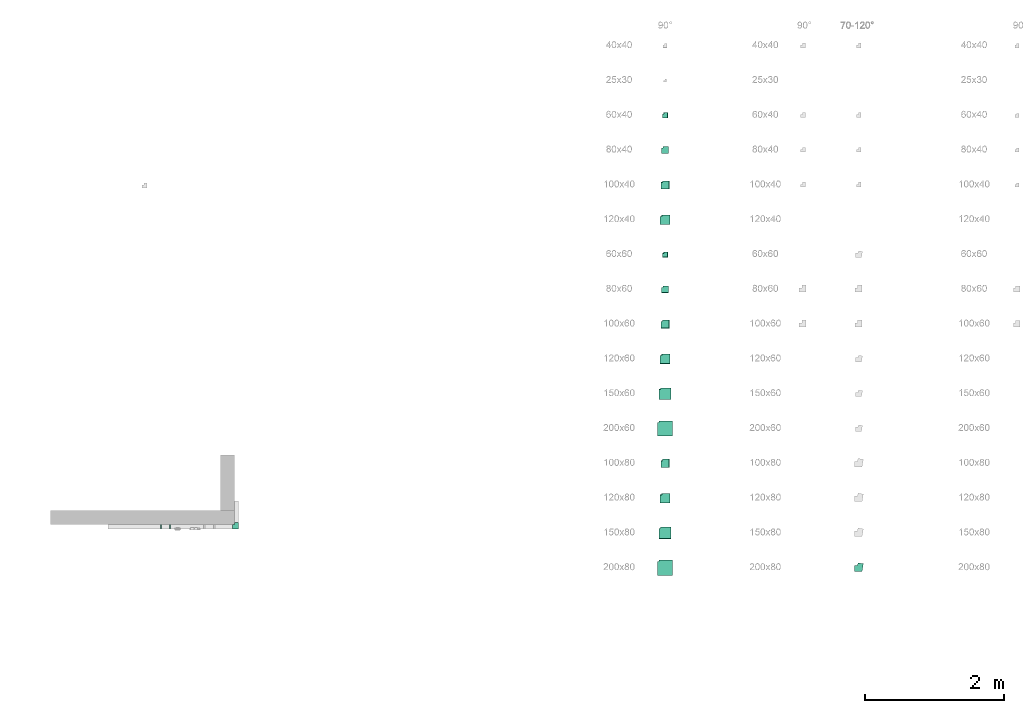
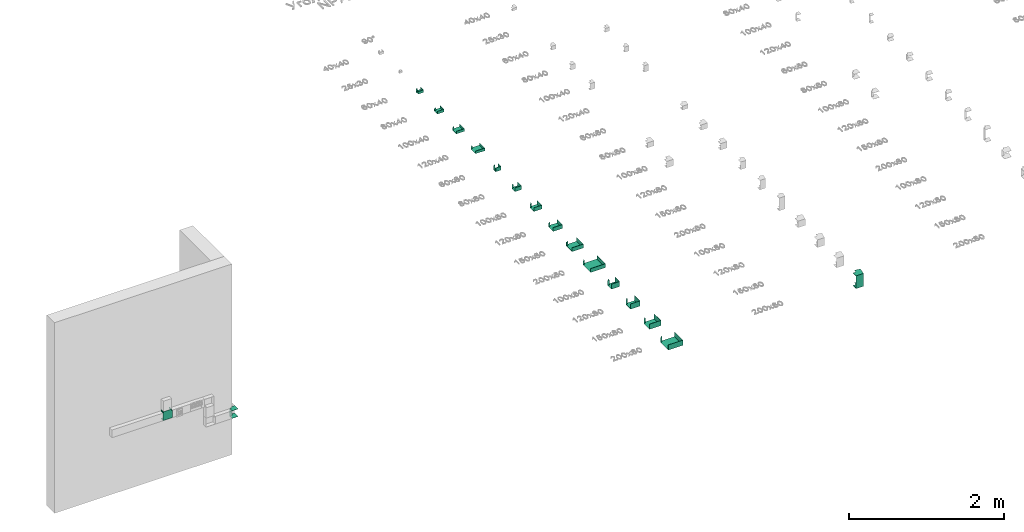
# One storey, part 5 of 71: 17 flow fittings.
"""IFC2X3 building model written with IfcOpenShell, lengths in millimetres."""

from ifc_helpers import new_model, entity, si_unit, converted_unit, derived_unit, direction, frame, origin, place, context, subcontext, project, spatial, faceted_brep, source, transform, mapped, material, type_object, type_shapes, element, save


model = new_model("IFC2X3")

# Units and contexts
model_context = context("Model", 3, precision=0.01, world=origin(), true_north=direction((6.12303176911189e-17, 1.0)))
body_context = subcontext(model_context, "Body", "Model", "MODEL_VIEW")
ifc_project = project(units=[si_unit("LENGTHUNIT", "METRE", prefix="MILLI"), si_unit("AREAUNIT", "SQUARE_METRE"), si_unit("VOLUMEUNIT", "CUBIC_METRE"), converted_unit("PLANEANGLEUNIT", "DEGREE", entity("IfcRatioMeasure", 0.0174532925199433), si_unit("PLANEANGLEUNIT", "RADIAN"), dimensions=[0, 0, 0, 0, 0, 0, 0]), si_unit("MASSUNIT", "GRAM", prefix="KILO"), derived_unit("MASSDENSITYUNIT", [(si_unit("MASSUNIT", "GRAM", prefix="KILO"), 1), (si_unit("LENGTHUNIT", "METRE"), -3)]), si_unit("TIMEUNIT", "SECOND"), si_unit("FREQUENCYUNIT", "HERTZ"), si_unit("THERMODYNAMICTEMPERATUREUNIT", "DEGREE_CELSIUS"), derived_unit("THERMALTRANSMITTANCEUNIT", [(si_unit("MASSUNIT", "GRAM", prefix="KILO"), 1), (si_unit("THERMODYNAMICTEMPERATUREUNIT", "KELVIN"), -1), (si_unit("TIMEUNIT", "SECOND"), -3)]), derived_unit("VOLUMETRICFLOWRATEUNIT", [(si_unit("LENGTHUNIT", "METRE"), 3), (si_unit("TIMEUNIT", "SECOND"), -1)]), si_unit("ELECTRICCURRENTUNIT", "AMPERE"), si_unit("ELECTRICVOLTAGEUNIT", "VOLT"), si_unit("POWERUNIT", "WATT"), si_unit("FORCEUNIT", "NEWTON", prefix="KILO"), si_unit("ILLUMINANCEUNIT", "LUX"), si_unit("LUMINOUSFLUXUNIT", "LUMEN"), si_unit("LUMINOUSINTENSITYUNIT", "CANDELA"), derived_unit("USERDEFINED", [(si_unit("MASSUNIT", "GRAM", prefix="KILO"), -1), (si_unit("LENGTHUNIT", "METRE"), -2), (si_unit("TIMEUNIT", "SECOND"), 3), (si_unit("LUMINOUSFLUXUNIT", "LUMEN"), 1)]), derived_unit("LINEARVELOCITYUNIT", [(si_unit("LENGTHUNIT", "METRE"), 1), (si_unit("TIMEUNIT", "SECOND"), -1)]), si_unit("PRESSUREUNIT", "PASCAL"), derived_unit("USERDEFINED", [(si_unit("LENGTHUNIT", "METRE"), -2), (si_unit("MASSUNIT", "GRAM", prefix="KILO"), 1), (si_unit("TIMEUNIT", "SECOND"), -2)])], contexts=[model_context])

# Site, building, storey
site_placement = place(None, origin())
site = spatial("IfcSite", under=ifc_project, at=site_placement, Name="Default", CompositionType="ELEMENT")
building_placement = place(site_placement, origin())
building = spatial("IfcBuilding", under=site, at=building_placement, Name="Наименование здания", CompositionType="ELEMENT")
storey_placement = place(building_placement, origin())
storey = spatial("IfcBuildingStorey", under=building, at=storey_placement, Name="Этаж 01", CompositionType="ELEMENT", Elevation=0.0)

# Flow fittings
ifc_material = material(Name="DKC_Пластик_Белый")
cable_carrier_fitting_type_1 = type_object("IfcCableCarrierFittingType", Name="Угол внешний_DKC", PredefinedType="NOTDEFINED", material=ifc_material)
shared_shape_1 = source(origin(), body_context, "Body", "Brep", [
    faceted_brep([(-60.0, -30.0, 60.0), (-60.0, 30.0, 60.0), (-60.0, 30.0, 57.4600000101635), (-60.0, -27.4600000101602, 57.4600000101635), (-60.0, -27.4600000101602, -57.4600000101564), (-60.0, 30.0, -57.4600000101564), (-60.0, 30.0, -60.0), (-60.0, -30.0, -60.0), (-30.0, -60.0, 60.0), (-30.0, -60.0, -60.0), (30.0, -60.0, -60.0), (30.0, -60.0, -57.4600000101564), (-27.460000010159, -60.0, -57.4600000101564), (-27.460000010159, -60.0, 57.4600000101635), (30.0, -60.0, 57.4600000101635), (30.0, -60.0, 60.0), (-30.0, -30.0, -60.0), (-30.0, -30.0, 60.0), (30.0, 30.0, -60.0), (30.0, 30.0, -57.4600000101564), (-27.4600000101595, -27.4600000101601, -57.4600000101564), (-27.4600000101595, -27.4600000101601, 57.4600000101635), (30.0, 30.0, 57.4600000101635), (30.0, 30.0, 60.0)], [[[0, 1, 2, 3, 4, 5, 6, 7]], [[8, 9, 10, 11, 12, 13, 14, 15]], [[7, 16, 17, 0]], [[6, 18, 10, 9, 16, 7]], [[5, 19, 18, 6]], [[4, 20, 12, 11, 19, 5]], [[3, 21, 20, 4]], [[2, 22, 14, 13, 21, 3]], [[1, 23, 22, 2]], [[0, 17, 8, 15, 23, 1]], [[16, 9, 8, 17]], [[19, 11, 10, 18]], [[21, 13, 12, 20]], [[23, 15, 14, 22]]]),
])
type_shapes(cable_carrier_fitting_type_1, [shared_shape_1])
flow_fitting_1_placement = place(storey_placement, frame((7644.76236313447, -3839.74530671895, 675.050073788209), z_axis=(0.0, 0.0, -1.0), x_axis=(1.0, 0.0, 0.0)))
element("IfcFlowFitting", 1, at=flow_fitting_1_placement, inside=storey, type_object=cable_carrier_fitting_type_1, material=ifc_material, Name="КНС_УголВнешний_ILC_DKC:Угол внешний_DKC", ObjectType="Угол внешний_DKC", context=body_context, shape_type="MappedRepresentation", body=[
    mapped(shared_shape_1, transform((0.0, 0.0, 0.0), scale=1.0)),
])
cable_carrier_fitting_type_2 = type_object("IfcCableCarrierFittingType", Name="Тройник/отвод", PredefinedType="NOTDEFINED", material=ifc_material)
shared_shape_2 = source(origin(), body_context, "Body", "Brep", [
    faceted_brep([(70.0, 57.4600000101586, -27.4600000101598), (-70.0, 57.4600000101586, -27.4600000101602), (-70.0, -57.4600000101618, -27.4600000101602), (-57.4600000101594, -57.4600000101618, -27.4600000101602), (-57.4600000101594, -80.0, -27.4600000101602), (57.4600000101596, -80.0, -27.4600000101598), (57.4600000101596, -57.4600000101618, -27.4600000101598), (70.0, -57.4600000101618, -27.4600000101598), (70.0, 60.0, -30.0), (70.0, -60.0, -30.0), (60.0, -60.0, -30.0), (60.0, -80.0, -30.0), (-60.0, -80.0, -30.0), (-60.0, -60.0, -30.0), (-70.0, -60.0, -30.0), (-70.0, 60.0, -30.0), (70.0, 60.0, 30.0), (70.0, 57.4600000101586, 30.0), (70.0, -57.4600000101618, 30.0), (70.0, -60.0, 30.0), (60.0, -60.0, 30.0), (59.9600000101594, -60.0, 30.0), (59.9600000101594, -80.0, 30.0), (57.4600000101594, -80.0, 30.0), (-57.4600000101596, -80.0, 30.0), (-60.0, -80.0, 30.0), (-59.9600000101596, -80.0, 30.0), (-59.9600000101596, -60.0, 30.0), (-70.0, -60.0, 30.0), (-70.0, -57.4600000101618, 30.0), (-70.0, 57.4600000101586, 30.0), (-70.0, 60.0, 30.0), (57.4600000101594, -57.4600000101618, 30.0), (-57.4600000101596, -57.4600000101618, 30.0)], [[[0, 1, 2, 3, 4, 5, 6, 7]], [[8, 9, 10, 11, 12, 13, 14, 15]], [[8, 16, 17, 0, 7, 18, 19, 9]], [[19, 20, 10, 9]], [[21, 22, 11, 10]], [[22, 23, 5, 4, 24, 25, 12, 11]], [[26, 27, 13, 12]], [[27, 28, 14, 13]], [[28, 29, 2, 1, 30, 31, 15, 14]], [[31, 16, 8, 15]], [[21, 19, 18, 32, 23, 22]], [[33, 3, 2, 29]], [[24, 4, 3, 33]], [[32, 6, 5, 23]], [[18, 7, 6, 32]], [[30, 1, 0, 17]], [[27, 26, 24, 33, 29, 28]], [[31, 30, 17, 16]]]),
])
type_shapes(cable_carrier_fitting_type_2, [shared_shape_2])
flow_fitting_2_placement = place(storey_placement, frame((6624.76236313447, -3839.74530671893, 1000.0), z_axis=(0.0, 1.0, 0.0), x_axis=(1.0, 0.0, 0.0)))
element("IfcFlowFitting", 2, at=flow_fitting_2_placement, inside=storey, type_object=cable_carrier_fitting_type_2, material=ifc_material, Name="КНС_ТройникNTAN_ILC_DKC:Тройник/отвод", ObjectType="Тройник/отвод", context=body_context, shape_type="MappedRepresentation", body=[
    mapped(shared_shape_2, transform((0.0, 0.0, 0.0), scale=1.0)),
])
cable_carrier_fitting_type_3 = type_object("IfcCableCarrierFittingType", Name="Угол плоский NPAN_DKC", PredefinedType="NOTDEFINED", material=ifc_material)
shared_shape_3 = source(origin(), body_context, "Body", "Brep", [
    faceted_brep([(-50.0, 30.0, -20.0), (-50.0, -30.0, -20.0), (-50.0, -30.0, 20.0), (-50.0, -27.4999999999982, 20.0), (-50.0, -27.4999999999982, -17.4999999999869), (-50.0, 27.5000000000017, -17.4999999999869), (-50.0, 27.5000000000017, 20.0), (-50.0, 30.0, 20.0), (-30.0, 30.0, -20.0), (-30.0, 50.0, -20.0), (30.0, 50.0, -20.0), (30.0, -30.0, -20.0), (30.0, -30.0, 20.0), (30.0, 50.0, 20.0), (27.4999999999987, 50.0, 20.0), (27.4999999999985, -27.499999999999, 20.0), (27.4999999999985, -27.4999999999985, -17.4999999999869), (27.4999999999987, 50.0, -17.4999999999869), (-27.5000000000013, 50.0, -17.4999999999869), (-27.5000000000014, 27.5000000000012, -17.4999999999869), (-27.5000000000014, 27.5000000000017, 20.0), (-27.5000000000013, 50.0, 20.0), (-30.0, 50.0, 20.0), (-30.0, 30.0, 20.0)], [[[0, 1, 2, 3, 4, 5, 6, 7]], [[1, 0, 8, 9, 10, 11]], [[2, 1, 11, 12]], [[3, 2, 12, 13, 14, 15]], [[4, 3, 15, 16]], [[5, 4, 16, 17, 18, 19]], [[6, 5, 19, 20]], [[7, 6, 20, 21, 22, 23]], [[0, 7, 23, 8]], [[9, 22, 21, 18, 17, 14, 13, 10]], [[12, 11, 10, 13]], [[16, 15, 14, 17]], [[20, 19, 18, 21]], [[8, 23, 22, 9]]]),
])
type_shapes(cable_carrier_fitting_type_3, [shared_shape_3])
flow_fitting_3_placement = place(storey_placement, frame((13813.1010063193, 2060.7911827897, 0.0)))
element("IfcFlowFitting", 3, at=flow_fitting_3_placement, inside=storey, type_object=cable_carrier_fitting_type_3, material=ifc_material, Name="КНС_УголПлоский NPAN_ILC_DKC:Угол плоский NPAN_DKC", ObjectType="Угол плоский NPAN_DKC", context=body_context, shape_type="MappedRepresentation", body=[
    mapped(shared_shape_3, transform((0.0, 0.0, 0.0), scale=1.0)),
])
cable_carrier_fitting_type_4 = type_object("IfcCableCarrierFittingType", Name="Угол плоский NPAN_DKC", PredefinedType="NOTDEFINED", material=ifc_material)
shared_shape_4 = source(origin(), body_context, "Body", "Brep", [
    faceted_brep([(-60.0, 40.0, -20.0), (-60.0, -40.0, -20.0), (-60.0, -40.0, 20.0), (-60.0, -37.4999999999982, 20.0), (-60.0, -37.4999999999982, -17.4999999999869), (-60.0, 37.5000000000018, -17.4999999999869), (-60.0, 37.5000000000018, 20.0), (-60.0, 40.0, 20.0), (-40.0, 40.0, -20.0), (-40.0, 60.0, -20.0), (40.0, 60.0, -20.0), (40.0, -40.0, -20.0), (40.0, -40.0, 20.0), (40.0, 60.0, 20.0), (37.4999999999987, 60.0, 20.0), (37.4999999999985, -37.499999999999, 20.0), (37.4999999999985, -37.4999999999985, -17.4999999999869), (37.4999999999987, 60.0, -17.4999999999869), (-37.5000000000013, 60.0, -17.4999999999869), (-37.5000000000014, 37.5000000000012, -17.4999999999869), (-37.5000000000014, 37.5000000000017, 20.0), (-37.5000000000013, 60.0, 20.0), (-40.0, 60.0, 20.0), (-40.0, 40.0, 20.0)], [[[0, 1, 2, 3, 4, 5, 6, 7]], [[1, 0, 8, 9, 10, 11]], [[2, 1, 11, 12]], [[3, 2, 12, 13, 14, 15]], [[4, 3, 15, 16]], [[5, 4, 16, 17, 18, 19]], [[6, 5, 19, 20]], [[7, 6, 20, 21, 22, 23]], [[0, 7, 23, 8]], [[9, 22, 21, 18, 17, 14, 13, 10]], [[12, 11, 10, 13]], [[16, 15, 14, 17]], [[20, 19, 18, 21]], [[8, 23, 22, 9]]]),
])
type_shapes(cable_carrier_fitting_type_4, [shared_shape_4])
flow_fitting_4_placement = place(storey_placement, frame((13813.1010063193, 1560.7911827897, 0.0)))
element("IfcFlowFitting", 4, at=flow_fitting_4_placement, inside=storey, type_object=cable_carrier_fitting_type_4, material=ifc_material, Name="КНС_УголПлоский NPAN_ILC_DKC:Угол плоский NPAN_DKC", ObjectType="Угол плоский NPAN_DKC", context=body_context, shape_type="MappedRepresentation", body=[
    mapped(shared_shape_4, transform((0.0, 0.0, 0.0), scale=1.0)),
])
cable_carrier_fitting_type_5 = type_object("IfcCableCarrierFittingType", Name="Угол плоский NPAN_DKC", PredefinedType="NOTDEFINED", material=ifc_material)
shared_shape_5 = source(origin(), body_context, "Body", "Brep", [
    faceted_brep([(-70.0, 50.0, -20.0), (-70.0, -50.0, -20.0), (-70.0, -50.0, 20.0), (-70.0, -47.4999999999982, 20.0), (-70.0, -47.4999999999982, -17.4999999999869), (-70.0, 47.5000000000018, -17.4999999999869), (-70.0, 47.5000000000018, 20.0), (-70.0, 50.0, 20.0), (-50.0, 50.0, -20.0), (-50.0, 70.0, -20.0), (50.0, 70.0, -20.0), (50.0, -50.0, -20.0), (50.0, -50.0, 20.0), (50.0, 70.0, 20.0), (47.4999999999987, 70.0, 20.0), (47.4999999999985, -47.499999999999, 20.0), (47.4999999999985, -47.4999999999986, -17.4999999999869), (47.4999999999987, 70.0, -17.4999999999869), (-47.5000000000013, 70.0, -17.4999999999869), (-47.5000000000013, 47.5000000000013, -17.4999999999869), (-47.5000000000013, 47.5000000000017, 20.0), (-47.5000000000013, 70.0, 20.0), (-50.0, 70.0, 20.0), (-50.0, 50.0, 20.0)], [[[0, 1, 2, 3, 4, 5, 6, 7]], [[1, 0, 8, 9, 10, 11]], [[2, 1, 11, 12]], [[3, 2, 12, 13, 14, 15]], [[4, 3, 15, 16]], [[5, 4, 16, 17, 18, 19]], [[6, 5, 19, 20]], [[7, 6, 20, 21, 22, 23]], [[0, 7, 23, 8]], [[9, 22, 21, 18, 17, 14, 13, 10]], [[12, 11, 10, 13]], [[16, 15, 14, 17]], [[20, 19, 18, 21]], [[8, 23, 22, 9]]]),
])
type_shapes(cable_carrier_fitting_type_5, [shared_shape_5])
flow_fitting_5_placement = place(storey_placement, frame((13813.1010063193, 1060.7911827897, 0.0)))
element("IfcFlowFitting", 5, at=flow_fitting_5_placement, inside=storey, type_object=cable_carrier_fitting_type_5, material=ifc_material, Name="КНС_УголПлоский NPAN_ILC_DKC:Угол плоский NPAN_DKC", ObjectType="Угол плоский NPAN_DKC", context=body_context, shape_type="MappedRepresentation", body=[
    mapped(shared_shape_5, transform((0.0, 0.0, 0.0), scale=1.0)),
])
cable_carrier_fitting_type_6 = type_object("IfcCableCarrierFittingType", Name="Угол плоский NPAN_DKC", PredefinedType="NOTDEFINED", material=ifc_material)
shared_shape_6 = source(origin(), body_context, "Body", "Brep", [
    faceted_brep([(-80.0, 60.0, -20.0), (-80.0, -60.0, -20.0), (-80.0, -60.0, 20.0), (-80.0, -57.4999999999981, 20.0), (-80.0, -57.4999999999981, -17.4999999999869), (-80.0, 57.5000000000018, -17.4999999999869), (-80.0, 57.5000000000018, 20.0), (-80.0, 60.0, 20.0), (-60.0, 60.0, -20.0), (-60.0, 80.0, -20.0), (60.0, 80.0, -20.0), (60.0, -60.0, -20.0), (60.0, -60.0, 20.0), (60.0, 80.0, 20.0), (57.4999999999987, 80.0, 20.0), (57.4999999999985, -57.4999999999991, 20.0), (57.4999999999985, -57.4999999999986, -17.4999999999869), (57.4999999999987, 80.0, -17.4999999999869), (-57.5000000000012, 80.0, -17.4999999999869), (-57.5000000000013, 57.5000000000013, -17.4999999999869), (-57.5000000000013, 57.5000000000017, 20.0), (-57.5000000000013, 80.0, 20.0), (-60.0, 80.0, 20.0), (-60.0, 60.0, 20.0)], [[[0, 1, 2, 3, 4, 5, 6, 7]], [[1, 0, 8, 9, 10, 11]], [[2, 1, 11, 12]], [[3, 2, 12, 13, 14, 15]], [[4, 3, 15, 16]], [[5, 4, 16, 17, 18, 19]], [[6, 5, 19, 20]], [[7, 6, 20, 21, 22, 23]], [[0, 7, 23, 8]], [[9, 22, 21, 18, 17, 14, 13, 10]], [[12, 11, 10, 13]], [[16, 15, 14, 17]], [[20, 19, 18, 21]], [[8, 23, 22, 9]]]),
])
type_shapes(cable_carrier_fitting_type_6, [shared_shape_6])
flow_fitting_6_placement = place(storey_placement, frame((13813.1010063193, 560.791182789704, 0.0)))
element("IfcFlowFitting", 6, at=flow_fitting_6_placement, inside=storey, type_object=cable_carrier_fitting_type_6, material=ifc_material, Name="КНС_УголПлоский NPAN_ILC_DKC:Угол плоский NPAN_DKC", ObjectType="Угол плоский NPAN_DKC", context=body_context, shape_type="MappedRepresentation", body=[
    mapped(shared_shape_6, transform((0.0, 0.0, 0.0), scale=1.0)),
])
cable_carrier_fitting_type_7 = type_object("IfcCableCarrierFittingType", Name="Угол плоский NPAN_DKC", PredefinedType="NOTDEFINED", material=ifc_material)
shared_shape_7 = source(origin(), body_context, "Body", "Brep", [
    faceted_brep([(-50.0, 30.0, -30.0), (-50.0, -30.0, -30.0), (-50.0, -30.0, 30.0), (-50.0, -27.4999999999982, 30.0), (-50.0, -27.4999999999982, -27.4999999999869), (-50.0, 27.5000000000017, -27.4999999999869), (-50.0, 27.5000000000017, 30.0), (-50.0, 30.0, 30.0), (-30.0, 30.0, -30.0), (-30.0, 50.0, -30.0), (30.0, 50.0, -30.0), (30.0, -30.0, -30.0), (30.0, -30.0, 30.0), (30.0, 50.0, 30.0), (27.4999999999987, 50.0, 30.0), (27.4999999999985, -27.499999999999, 30.0), (27.4999999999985, -27.4999999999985, -27.4999999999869), (27.4999999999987, 50.0, -27.4999999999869), (-27.5000000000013, 50.0, -27.4999999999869), (-27.5000000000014, 27.5000000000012, -27.4999999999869), (-27.5000000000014, 27.5000000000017, 30.0), (-27.5000000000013, 50.0, 30.0), (-30.0, 50.0, 30.0), (-30.0, 30.0, 30.0)], [[[0, 1, 2, 3, 4, 5, 6, 7]], [[1, 0, 8, 9, 10, 11]], [[2, 1, 11, 12]], [[3, 2, 12, 13, 14, 15]], [[4, 3, 15, 16]], [[5, 4, 16, 17, 18, 19]], [[6, 5, 19, 20]], [[7, 6, 20, 21, 22, 23]], [[0, 7, 23, 8]], [[9, 22, 21, 18, 17, 14, 13, 10]], [[12, 11, 10, 13]], [[16, 15, 14, 17]], [[20, 19, 18, 21]], [[8, 23, 22, 9]]]),
])
type_shapes(cable_carrier_fitting_type_7, [shared_shape_7])
flow_fitting_7_placement = place(storey_placement, frame((13813.1010063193, 60.7911827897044, 0.0)))
element("IfcFlowFitting", 7, at=flow_fitting_7_placement, inside=storey, type_object=cable_carrier_fitting_type_7, material=ifc_material, Name="КНС_УголПлоский NPAN_ILC_DKC:Угол плоский NPAN_DKC", ObjectType="Угол плоский NPAN_DKC", context=body_context, shape_type="MappedRepresentation", body=[
    mapped(shared_shape_7, transform((0.0, 0.0, 0.0), scale=1.0)),
])
cable_carrier_fitting_type_8 = type_object("IfcCableCarrierFittingType", Name="Угол плоский NPAN_DKC", PredefinedType="NOTDEFINED", material=ifc_material)
shared_shape_8 = source(origin(), body_context, "Body", "Brep", [
    faceted_brep([(-60.0, 40.0, -30.0), (-60.0, -40.0, -30.0), (-60.0, -40.0, 30.0), (-60.0, -37.4999999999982, 30.0), (-60.0, -37.4999999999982, -27.4999999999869), (-60.0, 37.5000000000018, -27.4999999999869), (-60.0, 37.5000000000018, 30.0), (-60.0, 40.0, 30.0), (-40.0, 40.0, -30.0), (-40.0, 60.0, -30.0), (40.0, 60.0, -30.0), (40.0, -40.0, -30.0), (40.0, -40.0, 30.0), (40.0, 60.0, 30.0), (37.4999999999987, 60.0, 30.0), (37.4999999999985, -37.499999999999, 30.0), (37.4999999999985, -37.4999999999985, -27.4999999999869), (37.4999999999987, 60.0, -27.4999999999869), (-37.5000000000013, 60.0, -27.4999999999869), (-37.5000000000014, 37.5000000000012, -27.4999999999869), (-37.5000000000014, 37.5000000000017, 30.0), (-37.5000000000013, 60.0, 30.0), (-40.0, 60.0, 30.0), (-40.0, 40.0, 30.0)], [[[0, 1, 2, 3, 4, 5, 6, 7]], [[1, 0, 8, 9, 10, 11]], [[2, 1, 11, 12]], [[3, 2, 12, 13, 14, 15]], [[4, 3, 15, 16]], [[5, 4, 16, 17, 18, 19]], [[6, 5, 19, 20]], [[7, 6, 20, 21, 22, 23]], [[0, 7, 23, 8]], [[9, 22, 21, 18, 17, 14, 13, 10]], [[12, 11, 10, 13]], [[16, 15, 14, 17]], [[20, 19, 18, 21]], [[8, 23, 22, 9]]]),
])
type_shapes(cable_carrier_fitting_type_8, [shared_shape_8])
flow_fitting_8_placement = place(storey_placement, frame((13813.1010063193, -439.208817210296, 0.0)))
element("IfcFlowFitting", 8, at=flow_fitting_8_placement, inside=storey, type_object=cable_carrier_fitting_type_8, material=ifc_material, Name="КНС_УголПлоский NPAN_ILC_DKC:Угол плоский NPAN_DKC", ObjectType="Угол плоский NPAN_DKC", context=body_context, shape_type="MappedRepresentation", body=[
    mapped(shared_shape_8, transform((0.0, 0.0, 0.0), scale=1.0)),
])
cable_carrier_fitting_type_9 = type_object("IfcCableCarrierFittingType", Name="Угол плоский NPAN_DKC", PredefinedType="NOTDEFINED", material=ifc_material)
shared_shape_9 = source(origin(), body_context, "Body", "Brep", [
    faceted_brep([(-70.0, 50.0, -30.0), (-70.0, -50.0, -30.0), (-70.0, -50.0, 30.0), (-70.0, -47.4999999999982, 30.0), (-70.0, -47.4999999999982, -27.4999999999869), (-70.0, 47.5000000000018, -27.4999999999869), (-70.0, 47.5000000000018, 30.0), (-70.0, 50.0, 30.0), (-50.0, 50.0, -30.0), (-50.0, 70.0, -30.0), (50.0, 70.0, -30.0), (50.0, -50.0, -30.0), (50.0, -50.0, 30.0), (50.0, 70.0, 30.0), (47.4999999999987, 70.0, 30.0), (47.4999999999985, -47.499999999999, 30.0), (47.4999999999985, -47.4999999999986, -27.4999999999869), (47.4999999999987, 70.0, -27.4999999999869), (-47.5000000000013, 70.0, -27.4999999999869), (-47.5000000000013, 47.5000000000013, -27.4999999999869), (-47.5000000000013, 47.5000000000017, 30.0), (-47.5000000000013, 70.0, 30.0), (-50.0, 70.0, 30.0), (-50.0, 50.0, 30.0)], [[[0, 1, 2, 3, 4, 5, 6, 7]], [[1, 0, 8, 9, 10, 11]], [[2, 1, 11, 12]], [[3, 2, 12, 13, 14, 15]], [[4, 3, 15, 16]], [[5, 4, 16, 17, 18, 19]], [[6, 5, 19, 20]], [[7, 6, 20, 21, 22, 23]], [[0, 7, 23, 8]], [[9, 22, 21, 18, 17, 14, 13, 10]], [[12, 11, 10, 13]], [[16, 15, 14, 17]], [[20, 19, 18, 21]], [[8, 23, 22, 9]]]),
])
type_shapes(cable_carrier_fitting_type_9, [shared_shape_9])
flow_fitting_9_placement = place(storey_placement, frame((13813.1010063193, -939.208817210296, 0.0)))
element("IfcFlowFitting", 9, at=flow_fitting_9_placement, inside=storey, type_object=cable_carrier_fitting_type_9, material=ifc_material, Name="КНС_УголПлоский NPAN_ILC_DKC:Угол плоский NPAN_DKC", ObjectType="Угол плоский NPAN_DKC", context=body_context, shape_type="MappedRepresentation", body=[
    mapped(shared_shape_9, transform((0.0, 0.0, 0.0), scale=1.0)),
])
cable_carrier_fitting_type_10 = type_object("IfcCableCarrierFittingType", Name="Угол плоский NPAN_DKC", PredefinedType="NOTDEFINED", material=ifc_material)
shared_shape_10 = source(origin(), body_context, "Body", "Brep", [
    faceted_brep([(-80.0, 60.0, -30.0), (-80.0, -60.0, -30.0), (-80.0, -60.0, 30.0), (-80.0, -57.4999999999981, 30.0), (-80.0, -57.4999999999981, -27.4999999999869), (-80.0, 57.5000000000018, -27.4999999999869), (-80.0, 57.5000000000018, 30.0), (-80.0, 60.0, 30.0), (-60.0, 60.0, -30.0), (-60.0, 80.0, -30.0), (60.0, 80.0, -30.0), (60.0, -60.0, -30.0), (60.0, -60.0, 30.0), (60.0, 80.0, 30.0), (57.4999999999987, 80.0, 30.0), (57.4999999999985, -57.4999999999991, 30.0), (57.4999999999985, -57.4999999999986, -27.4999999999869), (57.4999999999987, 80.0, -27.4999999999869), (-57.5000000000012, 80.0, -27.4999999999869), (-57.5000000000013, 57.5000000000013, -27.4999999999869), (-57.5000000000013, 57.5000000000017, 30.0), (-57.5000000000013, 80.0, 30.0), (-60.0, 80.0, 30.0), (-60.0, 60.0, 30.0)], [[[0, 1, 2, 3, 4, 5, 6, 7]], [[1, 0, 8, 9, 10, 11]], [[2, 1, 11, 12]], [[3, 2, 12, 13, 14, 15]], [[4, 3, 15, 16]], [[5, 4, 16, 17, 18, 19]], [[6, 5, 19, 20]], [[7, 6, 20, 21, 22, 23]], [[0, 7, 23, 8]], [[9, 22, 21, 18, 17, 14, 13, 10]], [[12, 11, 10, 13]], [[16, 15, 14, 17]], [[20, 19, 18, 21]], [[8, 23, 22, 9]]]),
])
type_shapes(cable_carrier_fitting_type_10, [shared_shape_10])
flow_fitting_10_placement = place(storey_placement, frame((13813.1010063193, -1439.2088172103, 0.0)))
element("IfcFlowFitting", 10, at=flow_fitting_10_placement, inside=storey, type_object=cable_carrier_fitting_type_10, material=ifc_material, Name="КНС_УголПлоский NPAN_ILC_DKC:Угол плоский NPAN_DKC", ObjectType="Угол плоский NPAN_DKC", context=body_context, shape_type="MappedRepresentation", body=[
    mapped(shared_shape_10, transform((0.0, 0.0, 0.0), scale=1.0)),
])
cable_carrier_fitting_type_11 = type_object("IfcCableCarrierFittingType", Name="Угол плоский NPAN_DKC", PredefinedType="NOTDEFINED", material=ifc_material)
shared_shape_11 = source(origin(), body_context, "Body", "Brep", [
    faceted_brep([(-95.0, 75.0, -30.0), (-95.0, -75.0, -30.0), (-95.0, -75.0, 30.0), (-95.0, -72.4999999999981, 30.0), (-95.0, -72.4999999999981, -27.4999999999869), (-95.0, 72.5000000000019, -27.4999999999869), (-95.0, 72.5000000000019, 30.0), (-95.0, 75.0, 30.0), (-75.0, 75.0, -30.0), (-75.0, 95.0, -30.0), (75.0, 95.0, -30.0), (75.0, -75.0, -30.0), (75.0, -75.0, 30.0), (75.0, 95.0, 30.0), (72.4999999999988, 95.0, 30.0), (72.4999999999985, -72.4999999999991, 30.0), (72.4999999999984, -72.4999999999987, -27.4999999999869), (72.4999999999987, 95.0, -27.4999999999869), (-72.5000000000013, 95.0, -27.4999999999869), (-72.5000000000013, 72.5000000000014, -27.4999999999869), (-72.5000000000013, 72.5000000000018, 30.0), (-72.5000000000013, 95.0, 30.0), (-75.0, 95.0, 30.0), (-75.0, 75.0, 30.0)], [[[0, 1, 2, 3, 4, 5, 6, 7]], [[1, 0, 8, 9, 10, 11]], [[2, 1, 11, 12]], [[3, 2, 12, 13, 14, 15]], [[4, 3, 15, 16]], [[5, 4, 16, 17, 18, 19]], [[6, 5, 19, 20]], [[7, 6, 20, 21, 22, 23]], [[0, 7, 23, 8]], [[9, 22, 21, 18, 17, 14, 13, 10]], [[12, 11, 10, 13]], [[16, 15, 14, 17]], [[20, 19, 18, 21]], [[8, 23, 22, 9]]]),
])
type_shapes(cable_carrier_fitting_type_11, [shared_shape_11])
flow_fitting_11_placement = place(storey_placement, frame((13813.1010063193, -1939.2088172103, 0.0)))
element("IfcFlowFitting", 11, at=flow_fitting_11_placement, inside=storey, type_object=cable_carrier_fitting_type_11, material=ifc_material, Name="КНС_УголПлоский NPAN_ILC_DKC:Угол плоский NPAN_DKC", ObjectType="Угол плоский NPAN_DKC", context=body_context, shape_type="MappedRepresentation", body=[
    mapped(shared_shape_11, transform((0.0, 0.0, 0.0), scale=1.0)),
])
cable_carrier_fitting_type_12 = type_object("IfcCableCarrierFittingType", Name="Угол плоский NPAN_DKC", PredefinedType="NOTDEFINED", material=ifc_material)
shared_shape_12 = source(origin(), body_context, "Body", "Brep", [
    faceted_brep([(-120.0, 100.0, -30.0), (-120.0, -100.0, -30.0), (-120.0, -100.0, 30.0), (-120.0, -97.499999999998, 30.0), (-120.0, -97.499999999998, -27.4999999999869), (-120.0, 97.500000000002, -27.4999999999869), (-120.0, 97.500000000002, 30.0), (-120.0, 100.0, 30.0), (-100.0, 100.0, -30.0), (-100.0, 120.0, -30.0), (100.0, 120.0, -30.0), (100.0, -100.0, -30.0), (100.0, -100.0, 30.0), (100.0, 120.0, 30.0), (97.4999999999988, 120.0, 30.0), (97.4999999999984, -97.4999999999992, 30.0), (97.4999999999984, -97.4999999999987, -27.4999999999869), (97.4999999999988, 120.0, -27.4999999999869), (-97.5000000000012, 120.0, -27.4999999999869), (-97.5000000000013, 97.5000000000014, -27.4999999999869), (-97.5000000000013, 97.5000000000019, 30.0), (-97.5000000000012, 120.0, 30.0), (-100.0, 120.0, 30.0), (-100.0, 100.0, 30.0)], [[[0, 1, 2, 3, 4, 5, 6, 7]], [[1, 0, 8, 9, 10, 11]], [[2, 1, 11, 12]], [[3, 2, 12, 13, 14, 15]], [[4, 3, 15, 16]], [[5, 4, 16, 17, 18, 19]], [[6, 5, 19, 20]], [[7, 6, 20, 21, 22, 23]], [[0, 7, 23, 8]], [[9, 22, 21, 18, 17, 14, 13, 10]], [[12, 11, 10, 13]], [[16, 15, 14, 17]], [[20, 19, 18, 21]], [[8, 23, 22, 9]]]),
])
type_shapes(cable_carrier_fitting_type_12, [shared_shape_12])
flow_fitting_12_placement = place(storey_placement, frame((13813.1010063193, -2439.2088172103, 0.0)))
element("IfcFlowFitting", 12, at=flow_fitting_12_placement, inside=storey, type_object=cable_carrier_fitting_type_12, material=ifc_material, Name="КНС_УголПлоский NPAN_ILC_DKC:Угол плоский NPAN_DKC", ObjectType="Угол плоский NPAN_DKC", context=body_context, shape_type="MappedRepresentation", body=[
    mapped(shared_shape_12, transform((0.0, 0.0, 0.0), scale=1.0)),
])
cable_carrier_fitting_type_13 = type_object("IfcCableCarrierFittingType", Name="Угол плоский NPAN_DKC", PredefinedType="NOTDEFINED", material=ifc_material)
shared_shape_13 = source(origin(), body_context, "Body", "Brep", [
    faceted_brep([(-70.0, 50.0, -40.0), (-70.0, -50.0, -40.0), (-70.0, -50.0, 40.0), (-70.0, -47.4999999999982, 40.0), (-70.0, -47.4999999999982, -37.4999999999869), (-70.0, 47.5000000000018, -37.4999999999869), (-70.0, 47.5000000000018, 40.0), (-70.0, 50.0, 40.0), (-50.0, 50.0, -40.0), (-50.0, 70.0, -40.0), (50.0, 70.0, -40.0), (50.0, -50.0, -40.0), (50.0, -50.0, 40.0), (50.0, 70.0, 40.0), (47.4999999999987, 70.0, 40.0), (47.4999999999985, -47.499999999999, 40.0), (47.4999999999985, -47.4999999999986, -37.4999999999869), (47.4999999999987, 70.0, -37.4999999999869), (-47.5000000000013, 70.0, -37.4999999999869), (-47.5000000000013, 47.5000000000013, -37.4999999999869), (-47.5000000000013, 47.5000000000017, 40.0), (-47.5000000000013, 70.0, 40.0), (-50.0, 70.0, 40.0), (-50.0, 50.0, 40.0)], [[[0, 1, 2, 3, 4, 5, 6, 7]], [[1, 0, 8, 9, 10, 11]], [[2, 1, 11, 12]], [[3, 2, 12, 13, 14, 15]], [[4, 3, 15, 16]], [[5, 4, 16, 17, 18, 19]], [[6, 5, 19, 20]], [[7, 6, 20, 21, 22, 23]], [[0, 7, 23, 8]], [[9, 22, 21, 18, 17, 14, 13, 10]], [[12, 11, 10, 13]], [[16, 15, 14, 17]], [[20, 19, 18, 21]], [[8, 23, 22, 9]]]),
])
type_shapes(cable_carrier_fitting_type_13, [shared_shape_13])
flow_fitting_13_placement = place(storey_placement, frame((13813.1010063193, -2939.2088172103, 0.0)))
element("IfcFlowFitting", 13, at=flow_fitting_13_placement, inside=storey, type_object=cable_carrier_fitting_type_13, material=ifc_material, Name="КНС_УголПлоский NPAN_ILC_DKC:Угол плоский NPAN_DKC", ObjectType="Угол плоский NPAN_DKC", context=body_context, shape_type="MappedRepresentation", body=[
    mapped(shared_shape_13, transform((0.0, 0.0, 0.0), scale=1.0)),
])
cable_carrier_fitting_type_14 = type_object("IfcCableCarrierFittingType", Name="Угол плоский NPAN_DKC", PredefinedType="NOTDEFINED", material=ifc_material)
shared_shape_14 = source(origin(), body_context, "Body", "Brep", [
    faceted_brep([(-80.0, 60.0, -40.0), (-80.0, -60.0, -40.0), (-80.0, -60.0, 40.0), (-80.0, -57.4999999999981, 40.0), (-80.0, -57.4999999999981, -37.4999999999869), (-80.0, 57.5000000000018, -37.4999999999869), (-80.0, 57.5000000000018, 40.0), (-80.0, 60.0, 40.0), (-60.0, 60.0, -40.0), (-60.0, 80.0, -40.0), (60.0, 80.0, -40.0), (60.0, -60.0, -40.0), (60.0, -60.0, 40.0), (60.0, 80.0, 40.0), (57.4999999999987, 80.0, 40.0), (57.4999999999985, -57.4999999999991, 40.0), (57.4999999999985, -57.4999999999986, -37.4999999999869), (57.4999999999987, 80.0, -37.4999999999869), (-57.5000000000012, 80.0, -37.4999999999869), (-57.5000000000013, 57.5000000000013, -37.4999999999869), (-57.5000000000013, 57.5000000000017, 40.0), (-57.5000000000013, 80.0, 40.0), (-60.0, 80.0, 40.0), (-60.0, 60.0, 40.0)], [[[0, 1, 2, 3, 4, 5, 6, 7]], [[1, 0, 8, 9, 10, 11]], [[2, 1, 11, 12]], [[3, 2, 12, 13, 14, 15]], [[4, 3, 15, 16]], [[5, 4, 16, 17, 18, 19]], [[6, 5, 19, 20]], [[7, 6, 20, 21, 22, 23]], [[0, 7, 23, 8]], [[9, 22, 21, 18, 17, 14, 13, 10]], [[12, 11, 10, 13]], [[16, 15, 14, 17]], [[20, 19, 18, 21]], [[8, 23, 22, 9]]]),
])
type_shapes(cable_carrier_fitting_type_14, [shared_shape_14])
flow_fitting_14_placement = place(storey_placement, frame((13813.1010063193, -3439.2088172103, 0.0)))
element("IfcFlowFitting", 14, at=flow_fitting_14_placement, inside=storey, type_object=cable_carrier_fitting_type_14, material=ifc_material, Name="КНС_УголПлоский NPAN_ILC_DKC:Угол плоский NPAN_DKC", ObjectType="Угол плоский NPAN_DKC", context=body_context, shape_type="MappedRepresentation", body=[
    mapped(shared_shape_14, transform((0.0, 0.0, 0.0), scale=1.0)),
])
cable_carrier_fitting_type_15 = type_object("IfcCableCarrierFittingType", Name="Угол плоский NPAN_DKC", PredefinedType="NOTDEFINED", material=ifc_material)
shared_shape_15 = source(origin(), body_context, "Body", "Brep", [
    faceted_brep([(-95.0, 75.0, -40.0), (-95.0, -75.0, -40.0), (-95.0, -75.0, 40.0), (-95.0, -72.4999999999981, 40.0), (-95.0, -72.4999999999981, -37.4999999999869), (-95.0, 72.5000000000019, -37.4999999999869), (-95.0, 72.5000000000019, 40.0), (-95.0, 75.0, 40.0), (-75.0, 75.0, -40.0), (-75.0, 95.0, -40.0), (75.0, 95.0, -40.0), (75.0, -75.0, -40.0), (75.0, -75.0, 40.0), (75.0, 95.0, 40.0), (72.4999999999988, 95.0, 40.0), (72.4999999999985, -72.4999999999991, 40.0), (72.4999999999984, -72.4999999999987, -37.4999999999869), (72.4999999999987, 95.0, -37.4999999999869), (-72.5000000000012, 95.0, -37.4999999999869), (-72.5000000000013, 72.5000000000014, -37.4999999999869), (-72.5000000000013, 72.5000000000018, 40.0), (-72.5000000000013, 95.0, 40.0), (-75.0, 95.0, 40.0), (-75.0, 75.0, 40.0)], [[[0, 1, 2, 3, 4, 5, 6, 7]], [[1, 0, 8, 9, 10, 11]], [[2, 1, 11, 12]], [[3, 2, 12, 13, 14, 15]], [[4, 3, 15, 16]], [[5, 4, 16, 17, 18, 19]], [[6, 5, 19, 20]], [[7, 6, 20, 21, 22, 23]], [[0, 7, 23, 8]], [[9, 22, 21, 18, 17, 14, 13, 10]], [[12, 11, 10, 13]], [[16, 15, 14, 17]], [[20, 19, 18, 21]], [[8, 23, 22, 9]]]),
])
type_shapes(cable_carrier_fitting_type_15, [shared_shape_15])
flow_fitting_15_placement = place(storey_placement, frame((13813.1010063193, -3939.2088172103, 0.0)))
element("IfcFlowFitting", 15, at=flow_fitting_15_placement, inside=storey, type_object=cable_carrier_fitting_type_15, material=ifc_material, Name="КНС_УголПлоский NPAN_ILC_DKC:Угол плоский NPAN_DKC", ObjectType="Угол плоский NPAN_DKC", context=body_context, shape_type="MappedRepresentation", body=[
    mapped(shared_shape_15, transform((0.0, 0.0, 0.0), scale=1.0)),
])
cable_carrier_fitting_type_16 = type_object("IfcCableCarrierFittingType", Name="Угол плоский NPAN_DKC", PredefinedType="NOTDEFINED", material=ifc_material)
shared_shape_16 = source(origin(), body_context, "Body", "Brep", [
    faceted_brep([(-120.0, 100.0, -40.0), (-120.0, -100.0, -40.0), (-120.0, -100.0, 40.0), (-120.0, -97.499999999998, 40.0), (-120.0, -97.499999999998, -37.4999999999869), (-120.0, 97.500000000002, -37.4999999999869), (-120.0, 97.500000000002, 40.0), (-120.0, 100.0, 40.0), (-100.0, 100.0, -40.0), (-100.0, 120.0, -40.0), (100.0, 120.0, -40.0), (100.0, -100.0, -40.0), (100.0, -100.0, 40.0), (100.0, 120.0, 40.0), (97.4999999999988, 120.0, 40.0), (97.4999999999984, -97.4999999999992, 40.0), (97.4999999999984, -97.4999999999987, -37.4999999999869), (97.4999999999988, 120.0, -37.4999999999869), (-97.5000000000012, 120.0, -37.4999999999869), (-97.5000000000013, 97.5000000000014, -37.4999999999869), (-97.5000000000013, 97.5000000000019, 40.0), (-97.5000000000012, 120.0, 40.0), (-100.0, 120.0, 40.0), (-100.0, 100.0, 40.0)], [[[0, 1, 2, 3, 4, 5, 6, 7]], [[1, 0, 8, 9, 10, 11]], [[2, 1, 11, 12]], [[3, 2, 12, 13, 14, 15]], [[4, 3, 15, 16]], [[5, 4, 16, 17, 18, 19]], [[6, 5, 19, 20]], [[7, 6, 20, 21, 22, 23]], [[0, 7, 23, 8]], [[9, 22, 21, 18, 17, 14, 13, 10]], [[12, 11, 10, 13]], [[16, 15, 14, 17]], [[20, 19, 18, 21]], [[8, 23, 22, 9]]]),
])
type_shapes(cable_carrier_fitting_type_16, [shared_shape_16])
flow_fitting_16_placement = place(storey_placement, frame((13813.1010063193, -4439.2088172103, 0.0)))
element("IfcFlowFitting", 16, at=flow_fitting_16_placement, inside=storey, type_object=cable_carrier_fitting_type_16, material=ifc_material, Name="КНС_УголПлоский NPAN_ILC_DKC:Угол плоский NPAN_DKC", ObjectType="Угол плоский NPAN_DKC", context=body_context, shape_type="MappedRepresentation", body=[
    mapped(shared_shape_16, transform((0.0, 0.0, 0.0), scale=1.0)),
])
cable_carrier_fitting_type_17 = type_object("IfcCableCarrierFittingType", Name="Угол внутренний_DKC", PredefinedType="NOTDEFINED", material=ifc_material)
shared_shape_17 = source(origin(), body_context, "Body", "Brep", [
    faceted_brep([(-76.3234686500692, -40.0, 100.0), (-76.323468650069, 40.0, 100.0), (-76.323468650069, 40.0, 97.5000000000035), (-76.3234686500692, -37.4999999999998, 97.5000000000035), (-76.3234686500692, -37.4999999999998, -97.4999999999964), (-76.323468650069, 40.0, -97.4999999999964), (-76.323468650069, 40.0, -100.0), (-76.3234686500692, -40.0, -100.0), (52.645741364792, 68.2180165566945, 100.0), (52.645741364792, 68.2180165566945, -100.0), (-26.1388788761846, 82.109870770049, -100.0), (-26.1388788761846, 82.109870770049, -97.4999999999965), (50.1837219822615, 68.6521370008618, -97.4999999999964), (50.1837219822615, 68.6521370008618, 97.5000000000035), (-26.1388788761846, 82.109870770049, 97.5000000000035), (-26.1388788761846, 82.109870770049, 100.0), (33.5639852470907, -40.0, 100.0), (-33.5639852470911, 40.0, 100.0), (-33.5639852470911, 40.0, 97.5000000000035), (31.4662361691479, -37.5000000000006, 97.5000000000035), (31.4662361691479, -37.5000000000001, -97.4999999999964), (-33.5639852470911, 40.0, -97.4999999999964), (-33.5639852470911, 40.0, -100.0), (33.5639852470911, -40.0, -100.0)], [[[0, 1, 2, 3, 4, 5, 6, 7]], [[8, 9, 10, 11, 12, 13, 14, 15]], [[1, 0, 16, 8, 15, 17]], [[2, 1, 17, 18]], [[3, 2, 18, 14, 13, 19]], [[4, 3, 19, 20]], [[5, 4, 20, 12, 11, 21]], [[6, 5, 21, 22]], [[7, 6, 22, 10, 9, 23]], [[0, 7, 23, 16]], [[18, 17, 15, 14]], [[20, 19, 13, 12]], [[22, 21, 11, 10]], [[16, 23, 9, 8]]]),
])
type_shapes(cable_carrier_fitting_type_17, [shared_shape_17])
flow_fitting_17_placement = place(storey_placement, frame((16600.2023027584, -4439.2088172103, 0.0)))
element("IfcFlowFitting", 17, at=flow_fitting_17_placement, inside=storey, type_object=cable_carrier_fitting_type_17, material=ifc_material, Name="КНС_УголВнутренний_ILC_DKC:Угол внутренний_DKC", ObjectType="Угол внутренний_DKC", context=body_context, shape_type="MappedRepresentation", body=[
    mapped(shared_shape_17, transform((0.0, 0.0, 0.0), scale=1.0)),
])

save(model, "model.ifc")
